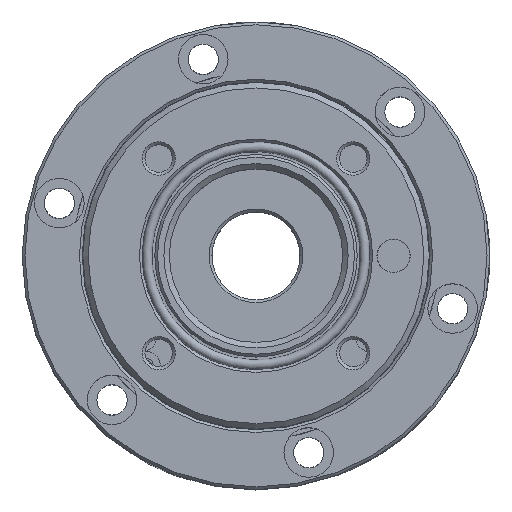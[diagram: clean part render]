
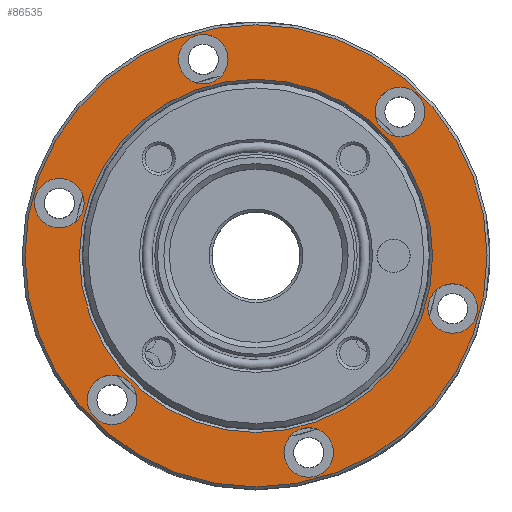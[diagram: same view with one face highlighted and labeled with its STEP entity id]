
A CAD part, top view. The second image highlights one B-rep face of the part: STEP entity #86535.
In plain terms, the highlighted planar face has unit normal (0, 0, 1).
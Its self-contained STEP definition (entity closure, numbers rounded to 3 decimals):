
#806 = VERTEX_POINT ( 'NONE', #10799 ) ;
#1306 = CARTESIAN_POINT ( 'NONE',  ( 30.668, 26.122, 35. ) ) ;
#2754 = CIRCLE ( 'NONE', #36382, 4.5 ) ;
#3052 = ORIENTED_EDGE ( 'NONE', *, *, #90374, .F. ) ;
#4003 = CARTESIAN_POINT ( 'NONE',  ( 0.005, -0.041, 35. ) ) ;
#4678 = FACE_BOUND ( 'NONE', #59913, .T. ) ;
#9315 = DIRECTION ( 'NONE',  ( 1., 0., 0. ) ) ;
#10629 = ORIENTED_EDGE ( 'NONE', *, *, #60459, .F. ) ;
#10730 = CARTESIAN_POINT ( 'NONE',  ( 26.168, 26.122, 35. ) ) ;
#10799 = CARTESIAN_POINT ( 'NONE',  ( 40.245, -9.617, 35. ) ) ;
#11077 = AXIS2_PLACEMENT_3D ( 'NONE', #96653, #81423, #9315 ) ;
#12106 = CARTESIAN_POINT ( 'NONE',  ( 0.005, -0.041, 35. ) ) ;
#12338 = CARTESIAN_POINT ( 'NONE',  ( -31.234, 9.535, 35. ) ) ;
#16231 = EDGE_CURVE ( 'NONE', #84532, #84532, #76144, .T. ) ;
#16600 = CARTESIAN_POINT ( 'NONE',  ( 35.745, -9.617, 35. ) ) ;
#17969 = EDGE_LOOP ( 'NONE', ( #102270 ) ) ;
#18994 = FACE_BOUND ( 'NONE', #17969, .T. ) ;
#19522 = FACE_BOUND ( 'NONE', #58921, .T. ) ;
#20903 = CARTESIAN_POINT ( 'NONE',  ( 14.082, -35.78, 35. ) ) ;
#22362 = AXIS2_PLACEMENT_3D ( 'NONE', #53125, #37310, #46751 ) ;
#23606 = EDGE_LOOP ( 'NONE', ( #24665 ) ) ;
#24298 = DIRECTION ( 'NONE',  ( 0., 0., -1. ) ) ;
#24665 = ORIENTED_EDGE ( 'NONE', *, *, #48336, .F. ) ;
#26377 = FACE_BOUND ( 'NONE', #55306, .T. ) ;
#26636 = EDGE_LOOP ( 'NONE', ( #3052 ) ) ;
#27361 = DIRECTION ( 'NONE',  ( 1., 0., 0. ) ) ;
#28152 = CIRCLE ( 'NONE', #40014, 4.5 ) ;
#28585 = EDGE_LOOP ( 'NONE', ( #10629 ) ) ;
#28650 = VERTEX_POINT ( 'NONE', #12338 ) ;
#29198 = AXIS2_PLACEMENT_3D ( 'NONE', #71647, #24298, #32183 ) ;
#30835 = CIRCLE ( 'NONE', #29198, 32.1 ) ;
#32183 = DIRECTION ( 'NONE',  ( 1., 0., 0. ) ) ;
#34702 = CIRCLE ( 'NONE', #11077, 4.5 ) ;
#35037 = VERTEX_POINT ( 'NONE', #36590 ) ;
#35151 = CIRCLE ( 'NONE', #99014, 4.5 ) ;
#36175 = DIRECTION ( 'NONE',  ( 0., 0., 1. ) ) ;
#36314 = DIRECTION ( 'NONE',  ( 0., 0., 1. ) ) ;
#36382 = AXIS2_PLACEMENT_3D ( 'NONE', #10730, #58170, #67087 ) ;
#36590 = CARTESIAN_POINT ( 'NONE',  ( 32.105, -0.041, 35. ) ) ;
#37310 = DIRECTION ( 'NONE',  ( 0., 0., 1. ) ) ;
#40014 = AXIS2_PLACEMENT_3D ( 'NONE', #72282, #49669, #97988 ) ;
#45525 = CARTESIAN_POINT ( 'NONE',  ( -21.658, -26.204, 35. ) ) ;
#45577 = ORIENTED_EDGE ( 'NONE', *, *, #68041, .F. ) ;
#46751 = DIRECTION ( 'NONE',  ( 1., 0., 0. ) ) ;
#47076 = ORIENTED_EDGE ( 'NONE', *, *, #88200, .T. ) ;
#48336 = EDGE_CURVE ( 'NONE', #58234, #58234, #2754, .T. ) ;
#49669 = DIRECTION ( 'NONE',  ( 0., 0., 1. ) ) ;
#50615 = DIRECTION ( 'NONE',  ( 1., 0., 0. ) ) ;
#52183 = FACE_BOUND ( 'NONE', #23606, .T. ) ;
#53125 = CARTESIAN_POINT ( 'NONE',  ( 9.582, -35.78, 35. ) ) ;
#55306 = EDGE_LOOP ( 'NONE', ( #100135 ) ) ;
#55774 = EDGE_CURVE ( 'NONE', #806, #806, #35151, .T. ) ;
#58170 = DIRECTION ( 'NONE',  ( 0., 0., 1. ) ) ;
#58234 = VERTEX_POINT ( 'NONE', #1306 ) ;
#58921 = EDGE_LOOP ( 'NONE', ( #45577 ) ) ;
#59580 = FACE_OUTER_BOUND ( 'NONE', #79609, .T. ) ;
#59913 = EDGE_LOOP ( 'NONE', ( #65944 ) ) ;
#60459 = EDGE_CURVE ( 'NONE', #28650, #28650, #76279, .T. ) ;
#65543 = EDGE_CURVE ( 'NONE', #35037, #35037, #30835, .T. ) ;
#65944 = ORIENTED_EDGE ( 'NONE', *, *, #16231, .F. ) ;
#67087 = DIRECTION ( 'NONE',  ( 1., 0., 0. ) ) ;
#68041 = EDGE_CURVE ( 'NONE', #101208, #101208, #34702, .T. ) ;
#68548 = AXIS2_PLACEMENT_3D ( 'NONE', #4003, #36175, #100289 ) ;
#71647 = CARTESIAN_POINT ( 'NONE',  ( 0.005, -0.041, 35. ) ) ;
#71796 = CARTESIAN_POINT ( 'NONE',  ( 42.005, -0.041, 35. ) ) ;
#72282 = CARTESIAN_POINT ( 'NONE',  ( -9.571, 35.698, 35. ) ) ;
#76144 = CIRCLE ( 'NONE', #22362, 4.5 ) ;
#76279 = CIRCLE ( 'NONE', #88006, 4.5 ) ;
#76304 = CARTESIAN_POINT ( 'NONE',  ( -35.734, 9.535, 35. ) ) ;
#78632 = VERTEX_POINT ( 'NONE', #71796 ) ;
#79150 = VERTEX_POINT ( 'NONE', #101728 ) ;
#79609 = EDGE_LOOP ( 'NONE', ( #47076 ) ) ;
#81093 = FACE_BOUND ( 'NONE', #26636, .T. ) ;
#81423 = DIRECTION ( 'NONE',  ( 0., 0., 1. ) ) ;
#84532 = VERTEX_POINT ( 'NONE', #20903 ) ;
#84693 = DIRECTION ( 'NONE',  ( 0., 0., 1. ) ) ;
#86535 = ADVANCED_FACE ( 'NONE', ( #81093, #99970, #19522, #4678, #26377, #52183, #18994, #59580 ), #91533, .T. ) ;
#88006 = AXIS2_PLACEMENT_3D ( 'NONE', #76304, #36314, #27361 ) ;
#88200 = EDGE_CURVE ( 'NONE', #78632, #78632, #103814, .T. ) ;
#90374 = EDGE_CURVE ( 'NONE', #79150, #79150, #28152, .T. ) ;
#91533 = PLANE ( 'NONE',  #101985 ) ;
#95499 = DIRECTION ( 'NONE',  ( 1., 0., 0. ) ) ;
#96653 = CARTESIAN_POINT ( 'NONE',  ( -26.158, -26.204, 35. ) ) ;
#97988 = DIRECTION ( 'NONE',  ( 1., 0., 0. ) ) ;
#99014 = AXIS2_PLACEMENT_3D ( 'NONE', #16600, #102890, #95499 ) ;
#99970 = FACE_BOUND ( 'NONE', #28585, .T. ) ;
#100135 = ORIENTED_EDGE ( 'NONE', *, *, #55774, .F. ) ;
#100289 = DIRECTION ( 'NONE',  ( 1., 0., 0. ) ) ;
#101208 = VERTEX_POINT ( 'NONE', #45525 ) ;
#101728 = CARTESIAN_POINT ( 'NONE',  ( -5.071, 35.698, 35. ) ) ;
#101985 = AXIS2_PLACEMENT_3D ( 'NONE', #12106, #84693, #50615 ) ;
#102270 = ORIENTED_EDGE ( 'NONE', *, *, #65543, .T. ) ;
#102890 = DIRECTION ( 'NONE',  ( 0., 0., 1. ) ) ;
#103814 = CIRCLE ( 'NONE', #68548, 42. ) ;
